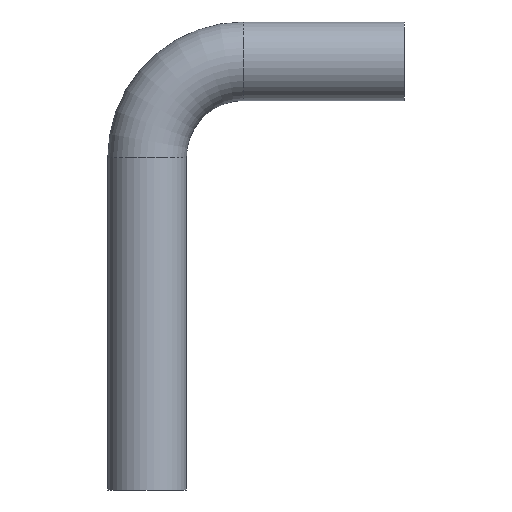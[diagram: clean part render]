
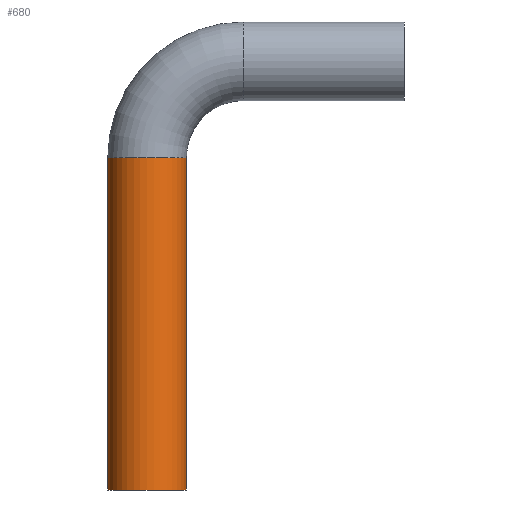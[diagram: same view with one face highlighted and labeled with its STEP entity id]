
A CAD part, front view. The second image highlights one B-rep face of the part: STEP entity #680.
In plain terms, the highlighted cylindrical face has radius 11 mm (diameter 22 mm), a partial arc.
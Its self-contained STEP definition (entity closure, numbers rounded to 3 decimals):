
#210=CARTESIAN_POINT('',(50.717,48.566,0.));
#220=DIRECTION('',(0.,0.,1.));
#230=DIRECTION('',(1.,0.,0.));
#240=AXIS2_PLACEMENT_3D('',#210,#220,#230);
#250=CIRCLE('',#240,11.);
#260=CARTESIAN_POINT('',(61.717,48.566,0.));
#270=VERTEX_POINT('',#260);
#280=CARTESIAN_POINT('',(39.717,48.566,0.));
#290=VERTEX_POINT('',#280);
#320=EDGE_CURVE('',#290,#270,#250,.T.);
#370=CARTESIAN_POINT('',(50.717,48.566,0.));
#380=DIRECTION('',(0.,0.,1.));
#390=DIRECTION('',(1.,0.,0.));
#400=AXIS2_PLACEMENT_3D('',#370,#380,#390);
#410=CYLINDRICAL_SURFACE('',#400,11.);
#420=CARTESIAN_POINT('',(61.717,48.566,0.));
#430=DIRECTION('',(0.,0.,1.));
#440=VECTOR('',#430,1.);
#450=LINE('',#420,#440);
#460=CARTESIAN_POINT('',(61.717,48.566,93.));
#470=VERTEX_POINT('',#460);
#480=EDGE_CURVE('',#270,#470,#450,.T.);
#490=ORIENTED_EDGE('',*,*,#480,.T.);
#500=ORIENTED_EDGE('',*,*,#320,.T.);
#510=CARTESIAN_POINT('',(39.717,48.566,0.));
#520=DIRECTION('',(0.,0.,1.));
#530=VECTOR('',#520,1.);
#540=LINE('',#510,#530);
#550=CARTESIAN_POINT('',(39.717,48.566,93.));
#560=VERTEX_POINT('',#550);
#570=EDGE_CURVE('',#290,#560,#540,.T.);
#580=ORIENTED_EDGE('',*,*,#570,.F.);
#590=CARTESIAN_POINT('',(50.717,48.566,93.));
#600=DIRECTION('',(0.,0.,1.));
#610=DIRECTION('',(1.,0.,0.));
#620=AXIS2_PLACEMENT_3D('',#590,#600,#610);
#630=CIRCLE('',#620,11.);
#640=EDGE_CURVE('',#560,#470,#630,.T.);
#650=ORIENTED_EDGE('',*,*,#640,.F.);
#660=EDGE_LOOP('',(#650,#580,#500,#490));
#670=FACE_OUTER_BOUND('',#660,.T.);
#680=ADVANCED_FACE('',(#670),#410,.T.);
